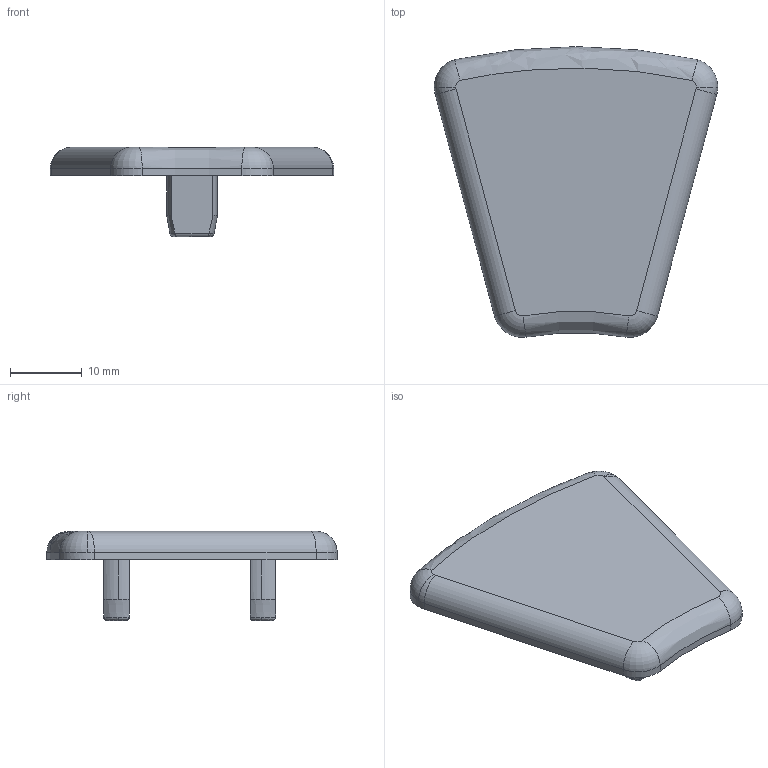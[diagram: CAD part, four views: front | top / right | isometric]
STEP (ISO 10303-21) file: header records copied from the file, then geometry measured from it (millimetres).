
FILE_DESCRIPTION (( 'STEP AP203' ), '1' );
FILE_NAME ('0108AKR4080-30.STEP', '2024-03-07T13:53:22', ( 'Windows-Benutzer' ), ( '' ), 'SwSTEP 2.0', 'SolidWorks 2023', '' );
FILE_SCHEMA (( 'CONFIG_CONTROL_DESIGN' ));
Length unit declared in the file: millimetre
Products named in the file (1): 0108AKR4080-30
Bounding box: 39.64 x 40.65 x 12.5 mm (x, y, z)
Volume: 4308.1 mm3; surface area: 3329 mm2
Topology: 1 solids, 1 shells, 62 faces, 158 edges, 101 vertices
Faces by surface type: cylinder 25, plane 13, bspline 12, torus 6, cone 6
Entity records: 2316 total; most frequent: CARTESIAN_POINT 838, ORIENTED_EDGE 316, DIRECTION 271, EDGE_CURVE 158, AXIS2_PLACEMENT_3D 110, VERTEX_POINT 101, EDGE_LOOP 65, ADVANCED_FACE 62
